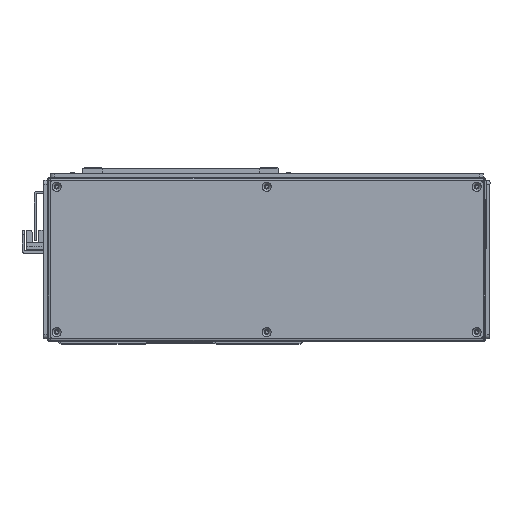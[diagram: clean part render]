
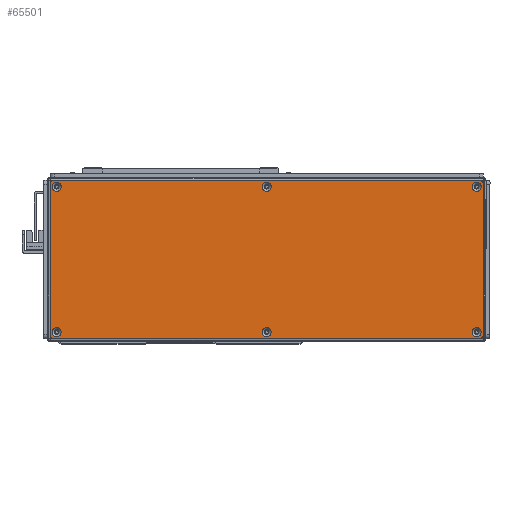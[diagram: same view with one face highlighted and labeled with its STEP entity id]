
A CAD part, top view. The second image highlights one B-rep face of the part: STEP entity #65501.
In plain terms, the highlighted planar face has unit normal (0, 0, 1) as drawn and (0, -1, 0) by its records, which use the part's own axes.
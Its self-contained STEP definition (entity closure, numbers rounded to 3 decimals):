
#1152=FACE_BOUND('',#9712,.T.);
#1153=FACE_BOUND('',#9713,.T.);
#1154=FACE_BOUND('',#9714,.T.);
#1155=FACE_BOUND('',#9715,.T.);
#1156=FACE_BOUND('',#9716,.T.);
#1157=FACE_BOUND('',#9717,.T.);
#1972=PLANE('',#70550);
#5882=FACE_OUTER_BOUND('',#9711,.T.);
#9711=EDGE_LOOP('',(#51265,#51266,#51267,#51268,#51269,#51270,#51271,#51272));
#9712=EDGE_LOOP('',(#51273));
#9713=EDGE_LOOP('',(#51274));
#9714=EDGE_LOOP('',(#51275));
#9715=EDGE_LOOP('',(#51276));
#9716=EDGE_LOOP('',(#51277));
#9717=EDGE_LOOP('',(#51278));
#14147=LINE('',#98267,#21967);
#14148=LINE('',#98271,#21968);
#14149=LINE('',#98275,#21969);
#14150=LINE('',#98278,#21970);
#21967=VECTOR('',#79813,10.);
#21968=VECTOR('',#79816,10.);
#21969=VECTOR('',#79819,10.);
#21970=VECTOR('',#79822,10.);
#28897=CIRCLE('',#70518,3.45);
#28900=CIRCLE('',#70523,3.45);
#28903=CIRCLE('',#70528,3.45);
#28906=CIRCLE('',#70533,3.45);
#28909=CIRCLE('',#70538,3.45);
#28912=CIRCLE('',#70543,3.45);
#28915=CIRCLE('',#70548,3.);
#28917=CIRCLE('',#70551,3.);
#28918=CIRCLE('',#70552,3.);
#28919=CIRCLE('',#70553,3.);
#31365=VERTEX_POINT('',#98197);
#31368=VERTEX_POINT('',#98207);
#31371=VERTEX_POINT('',#98217);
#31374=VERTEX_POINT('',#98227);
#31377=VERTEX_POINT('',#98237);
#31380=VERTEX_POINT('',#98247);
#31383=VERTEX_POINT('',#98257);
#31384=VERTEX_POINT('',#98258);
#31387=VERTEX_POINT('',#98266);
#31388=VERTEX_POINT('',#98268);
#31389=VERTEX_POINT('',#98270);
#31390=VERTEX_POINT('',#98272);
#31391=VERTEX_POINT('',#98274);
#31392=VERTEX_POINT('',#98276);
#38688=EDGE_CURVE('',#31365,#31365,#28897,.T.);
#38693=EDGE_CURVE('',#31368,#31368,#28900,.T.);
#38698=EDGE_CURVE('',#31371,#31371,#28903,.T.);
#38703=EDGE_CURVE('',#31374,#31374,#28906,.T.);
#38708=EDGE_CURVE('',#31377,#31377,#28909,.T.);
#38713=EDGE_CURVE('',#31380,#31380,#28912,.T.);
#38718=EDGE_CURVE('',#31383,#31384,#28915,.T.);
#38722=EDGE_CURVE('',#31383,#31387,#14147,.T.);
#38723=EDGE_CURVE('',#31388,#31387,#28917,.T.);
#38724=EDGE_CURVE('',#31388,#31389,#14148,.T.);
#38725=EDGE_CURVE('',#31390,#31389,#28918,.T.);
#38726=EDGE_CURVE('',#31390,#31391,#14149,.T.);
#38727=EDGE_CURVE('',#31392,#31391,#28919,.T.);
#38728=EDGE_CURVE('',#31392,#31384,#14150,.T.);
#51265=ORIENTED_EDGE('',*,*,#38718,.F.);
#51266=ORIENTED_EDGE('',*,*,#38722,.T.);
#51267=ORIENTED_EDGE('',*,*,#38723,.F.);
#51268=ORIENTED_EDGE('',*,*,#38724,.T.);
#51269=ORIENTED_EDGE('',*,*,#38725,.F.);
#51270=ORIENTED_EDGE('',*,*,#38726,.T.);
#51271=ORIENTED_EDGE('',*,*,#38727,.F.);
#51272=ORIENTED_EDGE('',*,*,#38728,.T.);
#51273=ORIENTED_EDGE('',*,*,#38688,.T.);
#51274=ORIENTED_EDGE('',*,*,#38693,.T.);
#51275=ORIENTED_EDGE('',*,*,#38698,.T.);
#51276=ORIENTED_EDGE('',*,*,#38703,.T.);
#51277=ORIENTED_EDGE('',*,*,#38708,.T.);
#51278=ORIENTED_EDGE('',*,*,#38713,.T.);
#65501=ADVANCED_FACE('',(#5882,#1152,#1153,#1154,#1155,#1156,#1157),#1972,
 .T.);
#70518=AXIS2_PLACEMENT_3D('',#98198,#79733,#79734);
#70523=AXIS2_PLACEMENT_3D('',#98208,#79745,#79746);
#70528=AXIS2_PLACEMENT_3D('',#98218,#79757,#79758);
#70533=AXIS2_PLACEMENT_3D('',#98228,#79769,#79770);
#70538=AXIS2_PLACEMENT_3D('',#98238,#79781,#79782);
#70543=AXIS2_PLACEMENT_3D('',#98248,#79793,#79794);
#70548=AXIS2_PLACEMENT_3D('',#98259,#79805,#79806);
#70550=AXIS2_PLACEMENT_3D('',#98265,#79811,#79812);
#70551=AXIS2_PLACEMENT_3D('',#98269,#79814,#79815);
#70552=AXIS2_PLACEMENT_3D('',#98273,#79817,#79818);
#70553=AXIS2_PLACEMENT_3D('',#98277,#79820,#79821);
#79733=DIRECTION('center_axis',(0.,1.,0.));
#79734=DIRECTION('ref_axis',(1.,0.,0.));
#79745=DIRECTION('center_axis',(0.,1.,0.));
#79746=DIRECTION('ref_axis',(1.,0.,0.));
#79757=DIRECTION('center_axis',(0.,1.,0.));
#79758=DIRECTION('ref_axis',(1.,0.,0.));
#79769=DIRECTION('center_axis',(0.,1.,0.));
#79770=DIRECTION('ref_axis',(1.,0.,0.));
#79781=DIRECTION('center_axis',(0.,1.,0.));
#79782=DIRECTION('ref_axis',(1.,0.,0.));
#79793=DIRECTION('center_axis',(0.,1.,0.));
#79794=DIRECTION('ref_axis',(1.,0.,0.));
#79805=DIRECTION('center_axis',(0.,1.,0.));
#79806=DIRECTION('ref_axis',(-0.707,0.,0.707));
#79811=DIRECTION('center_axis',(0.,-1.,0.));
#79812=DIRECTION('ref_axis',(0.,0.,-1.));
#79813=DIRECTION('',(0.,0.,-1.));
#79814=DIRECTION('center_axis',(0.,1.,0.));
#79815=DIRECTION('ref_axis',(-0.707,0.,-0.707));
#79816=DIRECTION('',(1.,0.,0.));
#79817=DIRECTION('center_axis',(0.,1.,0.));
#79818=DIRECTION('ref_axis',(0.707,0.,-0.707));
#79819=DIRECTION('',(0.,0.,1.));
#79820=DIRECTION('center_axis',(0.,1.,0.));
#79821=DIRECTION('ref_axis',(0.707,0.,0.707));
#79822=DIRECTION('',(-1.,0.,0.));
#98197=CARTESIAN_POINT('',(154.05,-1.5,54.5));
#98198=CARTESIAN_POINT('Origin',(157.5,-1.5,54.5));
#98207=CARTESIAN_POINT('',(-3.45,-1.5,54.5));
#98208=CARTESIAN_POINT('Origin',(0.,-1.5,54.5));
#98217=CARTESIAN_POINT('',(-160.95,-1.5,54.5));
#98218=CARTESIAN_POINT('Origin',(-157.5,-1.5,54.5));
#98227=CARTESIAN_POINT('',(-160.95,-1.5,-54.5));
#98228=CARTESIAN_POINT('Origin',(-157.5,-1.5,-54.5));
#98237=CARTESIAN_POINT('',(-3.45,-1.5,-54.5));
#98238=CARTESIAN_POINT('Origin',(0.,-1.5,-54.5));
#98247=CARTESIAN_POINT('',(154.05,-1.5,-54.5));
#98248=CARTESIAN_POINT('Origin',(157.5,-1.5,-54.5));
#98257=CARTESIAN_POINT('',(-162.5,-1.5,56.5));
#98258=CARTESIAN_POINT('',(-159.5,-1.5,59.5));
#98259=CARTESIAN_POINT('Origin',(-159.5,-1.5,56.5));
#98265=CARTESIAN_POINT('Origin',(0.,-1.5,0.));
#98266=CARTESIAN_POINT('',(-162.5,-1.5,-56.5));
#98267=CARTESIAN_POINT('',(-162.5,-1.5,59.5));
#98268=CARTESIAN_POINT('',(-159.5,-1.5,-59.5));
#98269=CARTESIAN_POINT('Origin',(-159.5,-1.5,-56.5));
#98270=CARTESIAN_POINT('',(159.5,-1.5,-59.5));
#98271=CARTESIAN_POINT('',(-162.5,-1.5,-59.5));
#98272=CARTESIAN_POINT('',(162.5,-1.5,-56.5));
#98273=CARTESIAN_POINT('Origin',(159.5,-1.5,-56.5));
#98274=CARTESIAN_POINT('',(162.5,-1.5,56.5));
#98275=CARTESIAN_POINT('',(162.5,-1.5,-59.5));
#98276=CARTESIAN_POINT('',(159.5,-1.5,59.5));
#98277=CARTESIAN_POINT('Origin',(159.5,-1.5,56.5));
#98278=CARTESIAN_POINT('',(162.5,-1.5,59.5));
